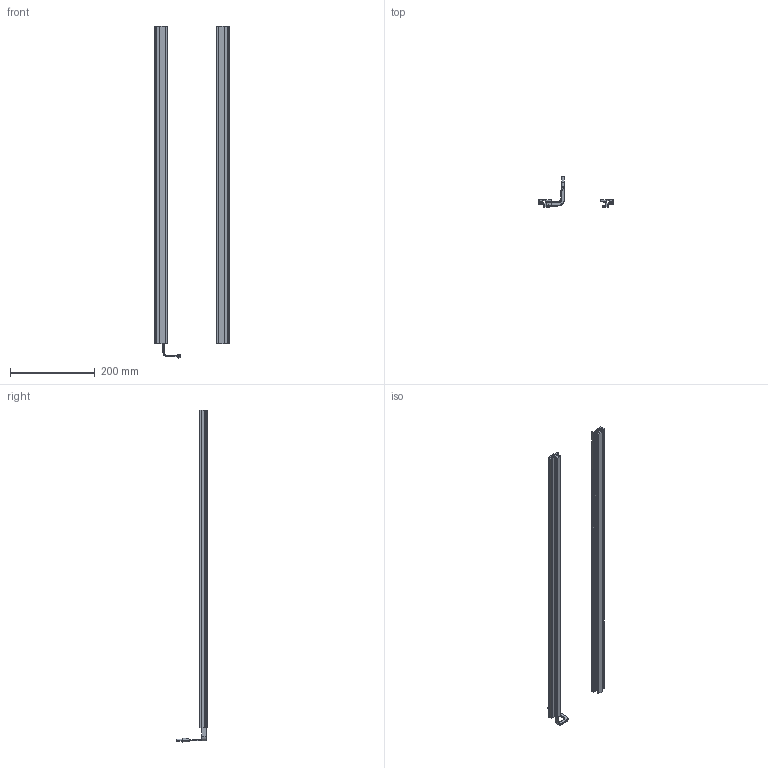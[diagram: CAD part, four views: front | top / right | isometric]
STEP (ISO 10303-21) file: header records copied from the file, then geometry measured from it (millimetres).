
FILE_DESCRIPTION (( 'STEP AP214' ), '1' );
FILE_NAME ('Traversenpaare inkl. Traversenkabel_750.step', '2010-10-19T14:28:29', ( 'grass' ), ( '' ), 'SwSTEP 2.0', 'SolidWorks 2010', '' );
FILE_SCHEMA (( 'AUTOMOTIVE_DESIGN' ));
Length unit declared in the file: millimetre
Products named in the file (1): Traversenpaare inkl. Traversenkabel_750
Bounding box: 176 x 72.5 x 783.75 mm (x, y, z)
Volume: 385534.6 mm3; surface area: 243897.8 mm2
Topology: 2 solids, 2 shells, 127 faces, 361 edges, 238 vertices
Faces by surface type: plane 107, cylinder 18, cone 2
Entity records: 4126 total; most frequent: CARTESIAN_POINT 733, ORIENTED_EDGE 722, DIRECTION 655, EDGE_CURVE 361, VECTOR 319, LINE 319, VERTEX_POINT 238, AXIS2_PLACEMENT_3D 168
